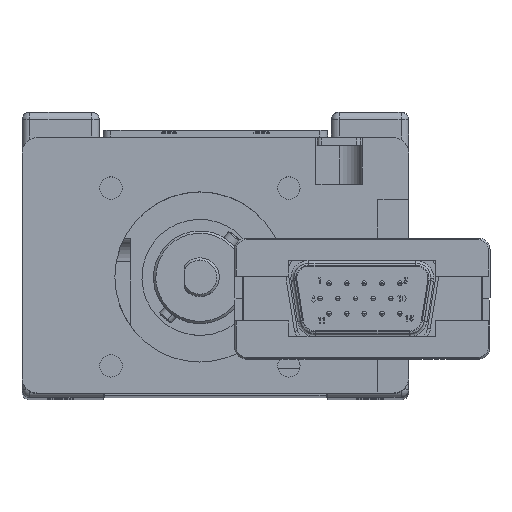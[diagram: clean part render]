
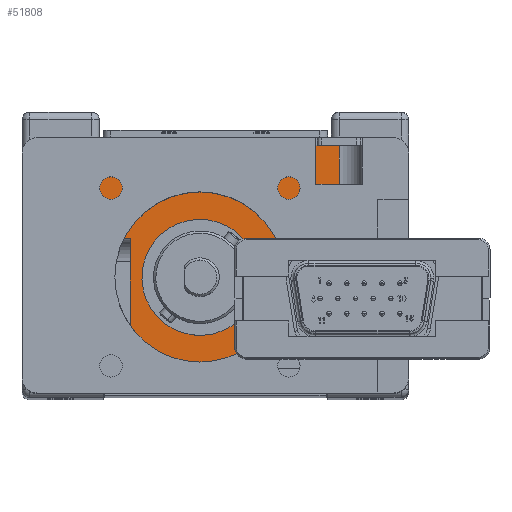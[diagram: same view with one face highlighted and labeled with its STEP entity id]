
A CAD part, top view. The second image highlights one B-rep face of the part: STEP entity #51808.
In plain terms, the highlighted planar face has unit normal (0, 0, 1).
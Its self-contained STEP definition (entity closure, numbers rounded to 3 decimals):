
#619 = VERTEX_POINT ( 'NONE', #16653 ) ;
#2007 = LINE ( 'NONE', #79486, #4097 ) ;
#4097 = VECTOR ( 'NONE', #27112, 1000. ) ;
#8663 = CARTESIAN_POINT ( 'NONE',  ( 7., 9.175, 192. ) ) ;
#8754 = EDGE_CURVE ( 'NONE', #619, #17921, #93058, .T. ) ;
#12715 = ORIENTED_EDGE ( 'NONE', *, *, #69617, .F. ) ;
#14522 = LINE ( 'NONE', #66933, #76301 ) ;
#16653 = CARTESIAN_POINT ( 'NONE',  ( -16., 20.5, 192. ) ) ;
#17921 = VERTEX_POINT ( 'NONE', #19252 ) ;
#18088 = EDGE_CURVE ( 'NONE', #61264, #58664, #110556, .T. ) ;
#19252 = CARTESIAN_POINT ( 'NONE',  ( -11., 20.5, 192. ) ) ;
#19525 = EDGE_CURVE ( 'NONE', #94452, #99073, #57857, .T. ) ;
#19553 = DIRECTION ( 'NONE',  ( 0., 1., 0. ) ) ;
#22019 = DIRECTION ( 'NONE',  ( 0., 1., 0. ) ) ;
#22259 = EDGE_CURVE ( 'NONE', #111796, #40772, #77949, .T. ) ;
#24364 = AXIS2_PLACEMENT_3D ( 'NONE', #32378, #58553, #93301 ) ;
#25557 = DIRECTION ( 'NONE',  ( 1., 0., 0. ) ) ;
#25567 = DIRECTION ( 'NONE',  ( -1., 0., 0. ) ) ;
#26679 = CARTESIAN_POINT ( 'NONE',  ( -2., 15.5, 192. ) ) ;
#26687 = VECTOR ( 'NONE', #19553, 1000. ) ;
#27112 = DIRECTION ( 'NONE',  ( 1., 0., 0. ) ) ;
#29994 = CARTESIAN_POINT ( 'NONE',  ( -11., 20.5, 192. ) ) ;
#30499 = VECTOR ( 'NONE', #22019, 1000. ) ;
#30989 = EDGE_CURVE ( 'NONE', #40772, #69603, #80505, .T. ) ;
#31003 = DIRECTION ( 'NONE',  ( 1., 0., 0. ) ) ;
#31463 = FACE_OUTER_BOUND ( 'NONE', #39649, .T. ) ;
#32378 = CARTESIAN_POINT ( 'NONE',  ( -2., 15.5, 192. ) ) ;
#32979 = CARTESIAN_POINT ( 'NONE',  ( -2., 20.5, 192. ) ) ;
#35011 = CARTESIAN_POINT ( 'NONE',  ( 4.928, 18.373, 192. ) ) ;
#36822 = VERTEX_POINT ( 'NONE', #68750 ) ;
#38538 = ORIENTED_EDGE ( 'NONE', *, *, #64694, .F. ) ;
#39446 = FACE_BOUND ( 'NONE', #108582, .T. ) ;
#39649 = EDGE_LOOP ( 'NONE', ( #38538, #101084, #55777, #59601, #111698, #12715, #74796, #59062 ) ) ;
#40681 = CARTESIAN_POINT ( 'NONE',  ( -8.928, 12.627, 192. ) ) ;
#40772 = VERTEX_POINT ( 'NONE', #102975 ) ;
#42109 = CARTESIAN_POINT ( 'NONE',  ( 7., 20.5, 192. ) ) ;
#45400 = CARTESIAN_POINT ( 'NONE',  ( 7., 20.5, 192. ) ) ;
#47429 = DIRECTION ( 'NONE',  ( 0., 0., -1. ) ) ;
#51808 = ADVANCED_FACE ( 'NONE', ( #39446, #31463 ), #84387, .F. ) ;
#54590 = EDGE_CURVE ( 'NONE', #58664, #17921, #109194, .T. ) ;
#55777 = ORIENTED_EDGE ( 'NONE', *, *, #8754, .T. ) ;
#57857 = CIRCLE ( 'NONE', #87000, 7.5 ) ;
#58273 = ORIENTED_EDGE ( 'NONE', *, *, #88862, .T. ) ;
#58553 = DIRECTION ( 'NONE',  ( 0., 0., -1. ) ) ;
#58664 = VERTEX_POINT ( 'NONE', #101272 ) ;
#59062 = ORIENTED_EDGE ( 'NONE', *, *, #30989, .T. ) ;
#59601 = ORIENTED_EDGE ( 'NONE', *, *, #54590, .F. ) ;
#60774 = DIRECTION ( 'NONE',  ( 0., -1., 0. ) ) ;
#61264 = VERTEX_POINT ( 'NONE', #8663 ) ;
#63038 = LINE ( 'NONE', #45400, #65792 ) ;
#64694 = EDGE_CURVE ( 'NONE', #36822, #69603, #2007, .T. ) ;
#65792 = VECTOR ( 'NONE', #60774, 1000. ) ;
#66430 = AXIS2_PLACEMENT_3D ( 'NONE', #110062, #47429, #66751 ) ;
#66751 = DIRECTION ( 'NONE',  ( -1., 0., 0. ) ) ;
#66933 = CARTESIAN_POINT ( 'NONE',  ( -16., 13.5, 192. ) ) ;
#68611 = DIRECTION ( 'NONE',  ( 0., 1., 0. ) ) ;
#68750 = CARTESIAN_POINT ( 'NONE',  ( -16., 32.5, 192. ) ) ;
#69603 = VERTEX_POINT ( 'NONE', #101869 ) ;
#69617 = EDGE_CURVE ( 'NONE', #111796, #61264, #63038, .T. ) ;
#74796 = ORIENTED_EDGE ( 'NONE', *, *, #22259, .T. ) ;
#76301 = VECTOR ( 'NONE', #68611, 1000. ) ;
#77250 = CARTESIAN_POINT ( 'NONE',  ( -2., 15.5, 192. ) ) ;
#77465 = VECTOR ( 'NONE', #31003, 1000. ) ;
#77763 = AXIS2_PLACEMENT_3D ( 'NONE', #77250, #111467, #86946 ) ;
#77949 = LINE ( 'NONE', #32979, #103847 ) ;
#79486 = CARTESIAN_POINT ( 'NONE',  ( 16., 32.5, 192. ) ) ;
#80266 = ORIENTED_EDGE ( 'NONE', *, *, #19525, .T. ) ;
#80505 = LINE ( 'NONE', #95919, #26687 ) ;
#83993 = EDGE_CURVE ( 'NONE', #619, #36822, #14522, .T. ) ;
#84387 = PLANE ( 'NONE',  #66430 ) ;
#86946 = DIRECTION ( 'NONE',  ( 1., 0., 0. ) ) ;
#87000 = AXIS2_PLACEMENT_3D ( 'NONE', #26679, #96752, #25567 ) ;
#88862 = EDGE_CURVE ( 'NONE', #99073, #94452, #109946, .T. ) ;
#93058 = LINE ( 'NONE', #110729, #77465 ) ;
#93301 = DIRECTION ( 'NONE',  ( -1., 0., 0. ) ) ;
#94452 = VERTEX_POINT ( 'NONE', #40681 ) ;
#95919 = CARTESIAN_POINT ( 'NONE',  ( 16., 13.5, 192. ) ) ;
#96752 = DIRECTION ( 'NONE',  ( 0., 0., -1. ) ) ;
#99073 = VERTEX_POINT ( 'NONE', #35011 ) ;
#101084 = ORIENTED_EDGE ( 'NONE', *, *, #83993, .F. ) ;
#101272 = CARTESIAN_POINT ( 'NONE',  ( -11., 9.175, 192. ) ) ;
#101869 = CARTESIAN_POINT ( 'NONE',  ( 16., 32.5, 192. ) ) ;
#102975 = CARTESIAN_POINT ( 'NONE',  ( 16., 20.5, 192. ) ) ;
#103847 = VECTOR ( 'NONE', #25557, 1000. ) ;
#108582 = EDGE_LOOP ( 'NONE', ( #80266, #58273 ) ) ;
#109194 = LINE ( 'NONE', #29994, #30499 ) ;
#109946 = CIRCLE ( 'NONE', #24364, 7.5 ) ;
#110062 = CARTESIAN_POINT ( 'NONE',  ( 16., 13.5, 192. ) ) ;
#110556 = CIRCLE ( 'NONE', #77763, 11. ) ;
#110729 = CARTESIAN_POINT ( 'NONE',  ( -2., 20.5, 192. ) ) ;
#111467 = DIRECTION ( 'NONE',  ( 0., 0., -1. ) ) ;
#111698 = ORIENTED_EDGE ( 'NONE', *, *, #18088, .F. ) ;
#111796 = VERTEX_POINT ( 'NONE', #42109 ) ;
